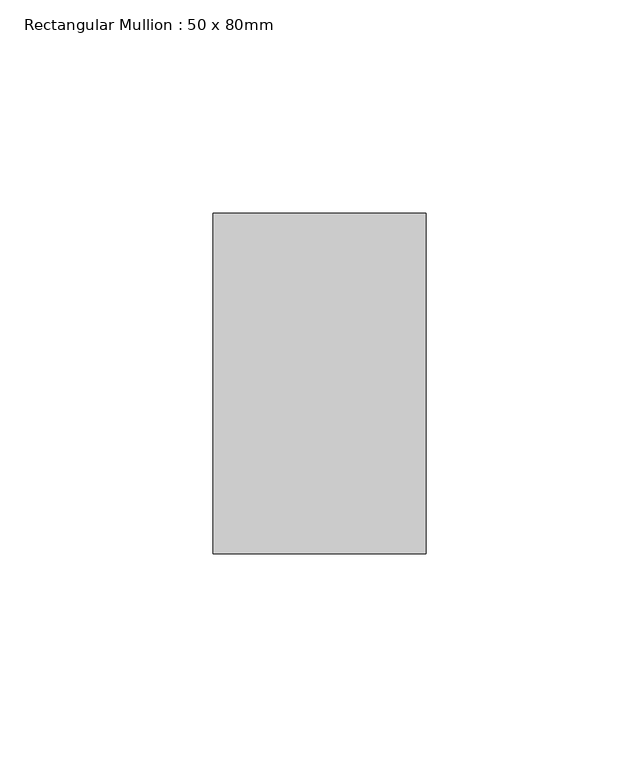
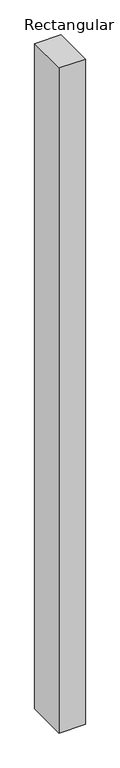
"""IFC4 building model written with IfcOpenShell, lengths in millimetres: member geometry, Rectangular Mullion : 50 x 80mm."""

from ifc_helpers import new_model, si_unit, frame, origin, place, context, project, spatial, polyline, outline, extrude, source, transform, mapped, element, save


def rectangular_mullion_50_x_80mm_d9e2006d(model_context):
    return source(origin(), model_context, "Body", "SweptSolid", [
        extrude(outline(polyline([(0.0, 25.0), (0.0, -55.0), (-50.0, -55.0), (-50.0, 25.0), (0.0, 25.0)])), frame((0.0, 0.0, -1335.0), z_axis=(0.0, 0.0, 1.0), x_axis=(1.0, 0.0, 0.0)), (0.0, 0.0, 1.0), 1335.0),
    ])


if __name__ == "__main__":
    model = new_model("IFC4")
    model_context = context("Model", 3, world=origin())
    ifc_project = project(units=[si_unit("LENGTHUNIT", "METRE", prefix="MILLI")], contexts=[model_context])
    site = spatial("IfcSite", under=ifc_project)
    building = spatial("IfcBuilding", under=site)
    placement = place(None, origin())
    rectangular_mullion_50_x_80mm_shape = rectangular_mullion_50_x_80mm_d9e2006d(model_context)
    element("IfcMember", 1, ObjectType="Rectangular Mullion : 50 x 80mm", at=placement, inside=building, context=model_context, shape_type="MappedRepresentation", body=[
        mapped(rectangular_mullion_50_x_80mm_shape, transform((0.0, 0.0, 0.0), x_axis=(1.0, 0.0, 0.0), y_axis=(0.0, 1.0, 0.0), z_axis=(0.0, 0.0, 1.0))),
    ])
    save(model, "model.ifc")
